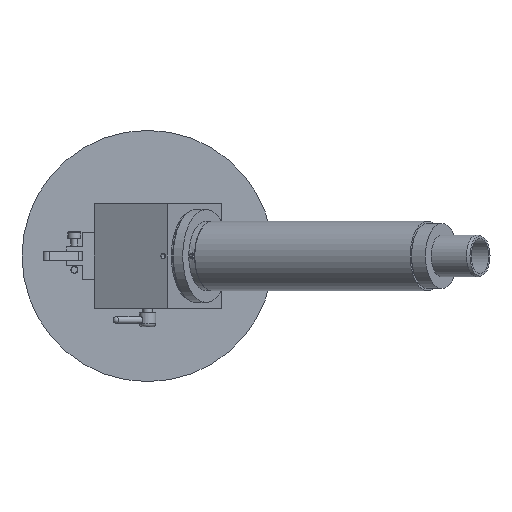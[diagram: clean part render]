
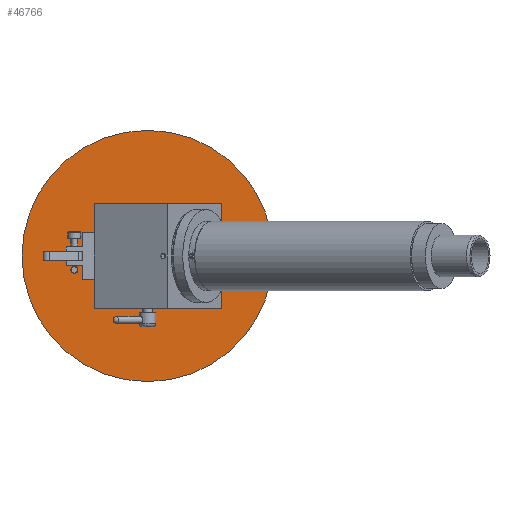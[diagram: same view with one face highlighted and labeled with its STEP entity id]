
A CAD part, left-side view. The second image highlights one B-rep face of the part: STEP entity #46766.
In plain terms, the highlighted planar face has unit normal (-1, 0, 0).
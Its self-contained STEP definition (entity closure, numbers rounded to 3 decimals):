
#10765=PLANE('',#50556);
#11544=FACE_BOUND('',#16853,.T.);
#11545=FACE_BOUND('',#16854,.T.);
#13645=FACE_OUTER_BOUND('',#16852,.T.);
#16852=EDGE_LOOP('',(#38309));
#16853=EDGE_LOOP('',(#38310));
#16854=EDGE_LOOP('',(#38311));
#18173=CIRCLE('',#48019,1.5);
#18238=CIRCLE('',#48191,22.5);
#19062=CIRCLE('',#50513,54.);
#19741=VERTEX_POINT('',#65869);
#19838=VERTEX_POINT('',#66357);
#22880=VERTEX_POINT('',#75465);
#23945=EDGE_CURVE('',#19741,#19741,#18173,.T.);
#24091=EDGE_CURVE('',#19838,#19838,#18238,.T.);
#28624=EDGE_CURVE('',#22880,#22880,#19062,.T.);
#38309=ORIENTED_EDGE('',*,*,#28624,.F.);
#38310=ORIENTED_EDGE('',*,*,#23945,.T.);
#38311=ORIENTED_EDGE('',*,*,#24091,.T.);
#46766=ADVANCED_FACE('',(#13645,#11544,#11545),#10765,.T.);
#48019=AXIS2_PLACEMENT_3D('',#65870,#52651,#52652);
#48191=AXIS2_PLACEMENT_3D('',#66358,#53069,#53070);
#50513=AXIS2_PLACEMENT_3D('',#75466,#61420,#61421);
#50556=AXIS2_PLACEMENT_3D('',#75570,#61553,#61554);
#52651=DIRECTION('center_axis',(1.,0.,0.));
#52652=DIRECTION('ref_axis',(0.,0.,-1.));
#53069=DIRECTION('center_axis',(1.,0.,0.));
#53070=DIRECTION('ref_axis',(0.,1.,0.));
#61420=DIRECTION('center_axis',(1.,0.,0.));
#61421=DIRECTION('ref_axis',(0.,1.,0.));
#61553=DIRECTION('center_axis',(-1.,0.,0.));
#61554=DIRECTION('ref_axis',(0.,0.,1.));
#65869=CARTESIAN_POINT('',(-11.273,26.008,-4.5));
#65870=CARTESIAN_POINT('Origin',(-11.273,26.008,-6.));
#66357=CARTESIAN_POINT('',(-11.273,17.008,0.));
#66358=CARTESIAN_POINT('Origin',(-11.273,-5.492,0.));
#75465=CARTESIAN_POINT('',(-11.273,48.508,0.));
#75466=CARTESIAN_POINT('Origin',(-11.273,-5.492,0.));
#75570=CARTESIAN_POINT('Origin',(-11.273,21.508,0.));
